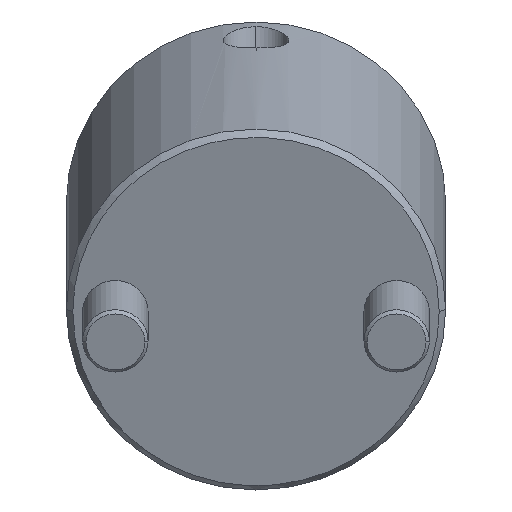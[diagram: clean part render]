
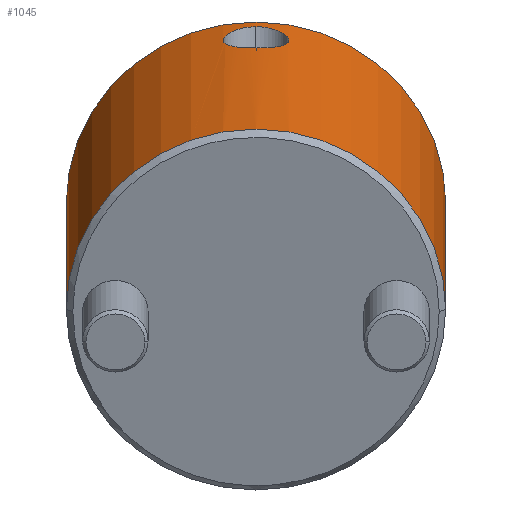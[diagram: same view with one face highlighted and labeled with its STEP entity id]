
A CAD part, front view. The second image highlights one B-rep face of the part: STEP entity #1045.
In plain terms, the highlighted cylindrical face has radius 29 mm (diameter 58 mm), a partial arc.
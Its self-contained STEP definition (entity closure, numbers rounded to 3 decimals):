
#781=CARTESIAN_POINT('Vertex',(0.,29.,1.)) ;
#784=CARTESIAN_POINT('Axis2P3D Location',(0.,0.,1.)) ;
#788=CARTESIAN_POINT('Vertex',(0.,-29.,1.)) ;
#940=CARTESIAN_POINT('Axis2P3D Location',(0.,0.,-2.75)) ;
#945=CARTESIAN_POINT('Line Origine',(0.,29.,-2.75)) ;
#949=CARTESIAN_POINT('Vertex',(0.,29.,54.)) ;
#952=CARTESIAN_POINT('Axis2P3D Location',(0.,0.,54.)) ;
#956=CARTESIAN_POINT('Vertex',(0.,-29.,54.)) ;
#959=CARTESIAN_POINT('Line Origine',(0.,-29.,-2.75)) ;
#971=CARTESIAN_POINT('Control Point',(29.,0.,51.652)) ;
#972=CARTESIAN_POINT('Control Point',(29.,0.413,51.652)) ;
#973=CARTESIAN_POINT('Control Point',(28.993,0.825,51.605)) ;
#974=CARTESIAN_POINT('Control Point',(28.978,1.237,51.509)) ;
#975=CARTESIAN_POINT('Control Point',(28.94,1.937,51.261)) ;
#976=CARTESIAN_POINT('Control Point',(28.886,2.588,50.874)) ;
#977=CARTESIAN_POINT('Control Point',(28.861,2.857,50.684)) ;
#978=CARTESIAN_POINT('Control Point',(28.797,3.455,50.181)) ;
#979=CARTESIAN_POINT('Control Point',(28.73,3.965,49.559)) ;
#980=CARTESIAN_POINT('Control Point',(28.693,4.218,49.174)) ;
#981=CARTESIAN_POINT('Control Point',(28.643,4.54,48.551)) ;
#982=CARTESIAN_POINT('Control Point',(28.607,4.762,47.896)) ;
#983=CARTESIAN_POINT('Control Point',(28.596,4.824,47.674)) ;
#984=CARTESIAN_POINT('Control Point',(28.574,4.952,47.114)) ;
#985=CARTESIAN_POINT('Control Point',(28.564,5.009,46.539)) ;
#986=CARTESIAN_POINT('Control Point',(28.563,5.016,46.194)) ;
#987=CARTESIAN_POINT('Control Point',(28.57,4.976,45.511)) ;
#988=CARTESIAN_POINT('Control Point',(28.595,4.833,44.852)) ;
#989=CARTESIAN_POINT('Control Point',(28.611,4.737,44.534)) ;
#990=CARTESIAN_POINT('Control Point',(28.657,4.455,43.814)) ;
#991=CARTESIAN_POINT('Control Point',(28.718,4.046,43.164)) ;
#992=CARTESIAN_POINT('Control Point',(28.756,3.772,42.82)) ;
#993=CARTESIAN_POINT('Control Point',(28.854,2.985,42.027)) ;
#994=CARTESIAN_POINT('Control Point',(28.941,2.003,41.48)) ;
#995=CARTESIAN_POINT('Control Point',(28.98,1.347,41.25)) ;
#996=CARTESIAN_POINT('Control Point',(29.,0.678,41.137)) ;
#997=CARTESIAN_POINT('Control Point',(29.,0.,41.137)) ;
#998=CARTESIAN_POINT('Vertex',(29.,0.,51.652)) ;
#1000=CARTESIAN_POINT('Vertex',(29.,0.,41.137)) ;
#1004=CARTESIAN_POINT('Control Point',(29.,0.,41.137)) ;
#1005=CARTESIAN_POINT('Control Point',(29.,-0.219,41.137)) ;
#1006=CARTESIAN_POINT('Control Point',(28.998,-0.436,41.149)) ;
#1007=CARTESIAN_POINT('Control Point',(28.994,-0.652,41.172)) ;
#1008=CARTESIAN_POINT('Control Point',(28.979,-1.19,41.261)) ;
#1009=CARTESIAN_POINT('Control Point',(28.952,-1.712,41.421)) ;
#1010=CARTESIAN_POINT('Control Point',(28.932,-2.014,41.542)) ;
#1011=CARTESIAN_POINT('Control Point',(28.879,-2.697,41.883)) ;
#1012=CARTESIAN_POINT('Control Point',(28.814,-3.304,42.348)) ;
#1013=CARTESIAN_POINT('Control Point',(28.775,-3.622,42.654)) ;
#1014=CARTESIAN_POINT('Control Point',(28.718,-4.042,43.158)) ;
#1015=CARTESIAN_POINT('Control Point',(28.669,-4.373,43.723)) ;
#1016=CARTESIAN_POINT('Control Point',(28.653,-4.474,43.919)) ;
#1017=CARTESIAN_POINT('Control Point',(28.624,-4.655,44.321)) ;
#1018=CARTESIAN_POINT('Control Point',(28.601,-4.793,44.742)) ;
#1019=CARTESIAN_POINT('Control Point',(28.592,-4.851,44.956)) ;
#1020=CARTESIAN_POINT('Control Point',(28.572,-4.967,45.504)) ;
#1021=CARTESIAN_POINT('Control Point',(28.563,-5.013,46.071)) ;
#1022=CARTESIAN_POINT('Control Point',(28.563,-5.014,46.416)) ;
#1023=CARTESIAN_POINT('Control Point',(28.571,-4.969,46.991)) ;
#1024=CARTESIAN_POINT('Control Point',(28.591,-4.854,47.554)) ;
#1025=CARTESIAN_POINT('Control Point',(28.601,-4.796,47.778)) ;
#1026=CARTESIAN_POINT('Control Point',(28.624,-4.657,48.219)) ;
#1027=CARTESIAN_POINT('Control Point',(28.653,-4.474,48.646)) ;
#1028=CARTESIAN_POINT('Control Point',(28.669,-4.371,48.855)) ;
#1029=CARTESIAN_POINT('Control Point',(28.703,-4.146,49.259)) ;
#1030=CARTESIAN_POINT('Control Point',(28.74,-3.881,49.636)) ;
#1031=CARTESIAN_POINT('Control Point',(28.758,-3.741,49.815)) ;
#1032=CARTESIAN_POINT('Control Point',(28.815,-3.296,50.326)) ;
#1033=CARTESIAN_POINT('Control Point',(28.869,-2.784,50.754)) ;
#1034=CARTESIAN_POINT('Control Point',(28.903,-2.418,50.997)) ;
#1035=CARTESIAN_POINT('Control Point',(28.954,-1.729,51.353)) ;
#1036=CARTESIAN_POINT('Control Point',(28.986,-0.994,51.56)) ;
#1037=CARTESIAN_POINT('Control Point',(28.995,-0.662,51.622)) ;
#1038=CARTESIAN_POINT('Control Point',(29.,-0.331,51.652)) ;
#1039=CARTESIAN_POINT('Control Point',(29.,0.,51.652)) ;
#785=DIRECTION('Axis2P3D Direction',(0.,0.,1.)) ;
#941=DIRECTION('Axis2P3D Direction',(0.,-0.,1.)) ;
#942=DIRECTION('Axis2P3D XDirection',(0.,-1.,0.)) ;
#946=DIRECTION('Vector Direction',(0.,0.,1.)) ;
#953=DIRECTION('Axis2P3D Direction',(0.,-0.,1.)) ;
#960=DIRECTION('Vector Direction',(0.,0.,1.)) ;
#786=AXIS2_PLACEMENT_3D('Circle Axis2P3D',#784,#785,$) ;
#943=AXIS2_PLACEMENT_3D('Cylinder Axis2P3D',#940,#941,#942) ;
#954=AXIS2_PLACEMENT_3D('Circle Axis2P3D',#952,#953,$) ;
#965=ORIENTED_EDGE('',*,*,#951,.F.) ;
#966=ORIENTED_EDGE('',*,*,#958,.T.) ;
#967=ORIENTED_EDGE('',*,*,#963,.T.) ;
#968=ORIENTED_EDGE('',*,*,#790,.F.) ;
#1042=ORIENTED_EDGE('',*,*,#1002,.T.) ;
#1043=ORIENTED_EDGE('',*,*,#1040,.T.) ;
#1044=FACE_BOUND('',#1041,.T.) ;
#947=VECTOR('Line Direction',#946,1.) ;
#961=VECTOR('Line Direction',#960,1.) ;
#1045=ADVANCED_FACE('MANIFOLD_SOLID_BREP #1148',(#969,#1044),#944,.T.) ;
#970=B_SPLINE_CURVE_WITH_KNOTS('',5,(#971,#972,#973,#974,#975,#976,#977,#978,#979,#980,#981,#982,#983,#984,#985,#986,#987,#988,#989,#990,#991,#992,#993,#994,#995,#996,#997),.UNSPECIFIED.,.F.,.U.,(6,3,3,3,3,3,3,3,6),(0.,3.077,5.417,8.587,10.186,12.541,14.89,18.015,22.852),.UNSPECIFIED.) ;
#1003=B_SPLINE_CURVE_WITH_KNOTS('',5,(#1004,#1005,#1006,#1007,#1008,#1009,#1010,#1011,#1012,#1013,#1014,#1015,#1016,#1017,#1018,#1019,#1020,#1021,#1022,#1023,#1024,#1025,#1026,#1027,#1028,#1029,#1030,#1031,#1032,#1033,#1034,#1035,#1036,#1037,#1038,#1039),.UNSPECIFIED.,.F.,.U.,(6,3,3,3,3,3,3,3,3,3,3,6),(0.,1.559,3.899,7.014,8.581,10.147,12.5,14.096,15.686,17.262,20.379,22.847),.UNSPECIFIED.) ;
#787=CIRCLE('generated circle',#786,29.) ;
#955=CIRCLE('generated circle',#954,29.) ;
#944=CYLINDRICAL_SURFACE('generated cylinder',#943,29.) ;
#790=EDGE_CURVE('',#782,#789,#787,.F.) ;
#951=EDGE_CURVE('',#950,#782,#948,.F.) ;
#958=EDGE_CURVE('',#950,#957,#955,.F.) ;
#963=EDGE_CURVE('',#957,#789,#962,.F.) ;
#1002=EDGE_CURVE('',#999,#1001,#970,.T.) ;
#1040=EDGE_CURVE('',#1001,#999,#1003,.T.) ;
#964=EDGE_LOOP('',(#965,#966,#967,#968)) ;
#1041=EDGE_LOOP('',(#1042,#1043)) ;
#969=FACE_OUTER_BOUND('',#964,.T.) ;
#948=LINE('Line',#945,#947) ;
#962=LINE('Line',#959,#961) ;
#782=VERTEX_POINT('',#781) ;
#789=VERTEX_POINT('',#788) ;
#950=VERTEX_POINT('',#949) ;
#957=VERTEX_POINT('',#956) ;
#999=VERTEX_POINT('',#998) ;
#1001=VERTEX_POINT('',#1000) ;
